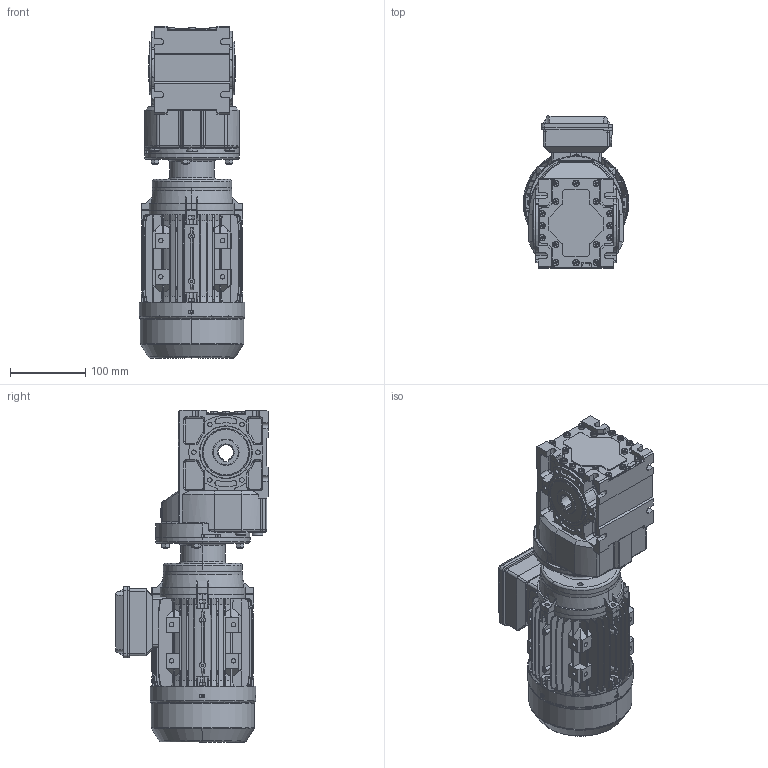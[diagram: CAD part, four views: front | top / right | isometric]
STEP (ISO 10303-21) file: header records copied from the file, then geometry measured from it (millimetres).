
FILE_DESCRIPTION (( 'STEP AP203' ), '1' );
FILE_NAME ('KV_003_0_MX3-71.STEP', '2018-11-21T13:11:10', ( '' ), ( '' ), 'SwSTEP 2.0', 'SolidWorks 2012', '' );
FILE_SCHEMA (( 'CONFIG_CONTROL_DESIGN' ));
Products named in the file (12): KV_003_0_MX3-71; Lüfterhaube_MS71; MX71_B14; L黤terfl黦el_MS71; Klemmkastenoberteil_MS71; Klemmenkastenunterteil_MS71; B14-Flansch_MS71; Gehäuse_MS71L; 0371B14_Varsayìlan; B-Lagerschild_MS71; ML111A_Varsayìlan; K003_Varsayìlan
Assembly tree (11 placements, depth 3):
  KV_003_0_MX3-71
    K003_Varsayìlan
    0371B14_Varsayìlan
    ML111A_Varsayìlan
    MX71_B14
      Gehäuse_MS71L
      B-Lagerschild_MS71
      B14-Flansch_MS71
      Klemmenkastenunterteil_MS71
      Klemmkastenoberteil_MS71
      L黤terfl黦el_MS71
      Lüfterhaube_MS71
Bounding box: 140 x 201.81 x 440.21 mm (x, y, z)
Volume: 2794257.1 mm3; surface area: 692122.7 mm2
Topology: 10 solids, 62 shells, 3536 faces, 9229 edges, 5811 vertices
Faces by surface type: plane 1584, cylinder 1047, cone 618, bspline 163, torus 121, sphere 3
Entity records: 129220 total; most frequent: CARTESIAN_POINT 42456, ORIENTED_EDGE 18378, DIRECTION 17212, EDGE_CURVE 9189, AXIS2_PLACEMENT_3D 6133, VERTEX_POINT 5811, VECTOR 4946, LINE 4946
